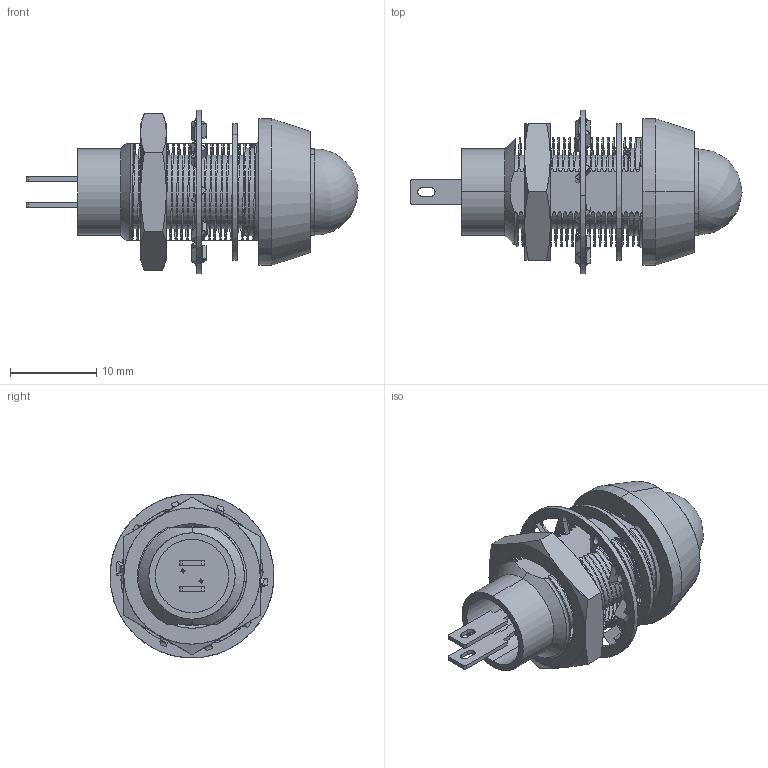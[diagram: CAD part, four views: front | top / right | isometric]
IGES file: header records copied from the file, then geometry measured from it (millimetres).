
Start section: SolidWorks IGES file using analytic representation for surfaces
Global section: file name: C:\Users\paulr\Desktop\STEP-IGES FILES\651\651series.IGS; native system: SolidWorks 2015; preprocessor: SolidWorks 2015; author: PaulR; date: 160301.080822; units: millimetre
Bounding box: 38.5 x 18.99 x 18.99 mm (x, y, z)
Surface area: 3795 mm2 (no closed solid volume)
Topology: 0 solids, 0 shells, 345 faces, 6696 edges, 5982 vertices
Faces by surface type: bspline 215, revolution 130
